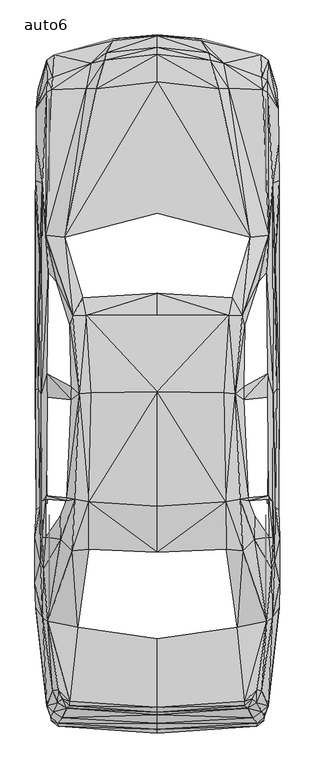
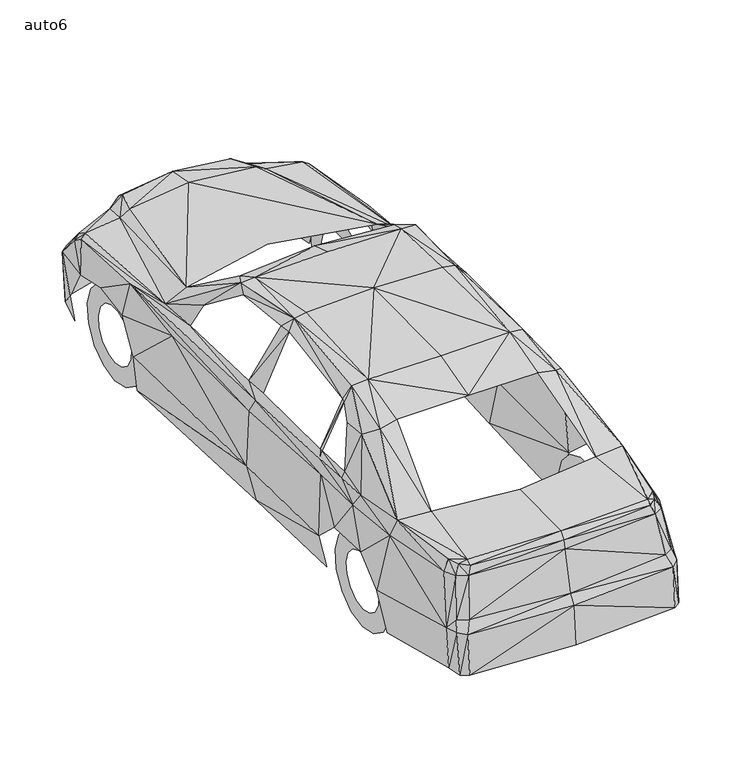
"""IFC4 building model written with IfcOpenShell, lengths in millimetres: proxy geometry, M_RPC maschio : auto6."""

from ifc_helpers import new_model, si_unit, origin, place, context, project, spatial, triangles, source, transform, mapped, element, save


def auto6_a4401406(model_context):
    return source(origin(), model_context, "Body", "Tessellation", [
        triangles([(0.0, -1042.9571966, 1063.5997593), (625.4039045, -1001.505003, 1051.066658), (0.0, -552.9577088, 1073.4870192), (625.5895763, -1033.8126966, 1026.464526), (0.0, -1081.809985, 1023.6793762), (647.1280146, -1052.8444565, 970.0189888), (762.6650757, -1112.1215796, 625.4967768), (759.5549458, -1141.2727798, 329.7609401), (745.8613775, -1075.3576899, 689.7407478), (681.8958778, -1120.8948086, 699.0245562), (318.6203773, 3734.1668381, 217.6125166), (0.0, 3762.6680054, 219.5621251), (714.8534592, 3626.1495941, 210.4175706), (767.9103951, 3582.4694115, 207.493167), (814.3758728, 3391.5941437, 200.3910569), (871.7962778, 2590.865403, 443.5804825), (857.4063131, 2563.4784119, 203.9188939), (872.538965, 1226.6095768, 472.0817588), (809.5482605, 1220.0181187, 199.0913179), (835.1251877, -399.0785113, 217.8910425), (786.5708839, 412.6514474, 193.1032568), (868.0363329, 366.8358573, 477.3271145), (662.3070299, 2314.4401245, 1045.6355942), (791.8626394, 3582.4694115, 585.6227935), (853.0893528, 3376.9723618, 405.3775818), (789.0774897, 3440.1949562, 750.5496815), (753.9847189, 3369.1274918, 834.2432648), (790.3308289, 3351.9058685, 814.3758728), (797.6186108, 2329.0620518, 965.1449404), (508.9385207, 3380.0823463, 858.798888), (534.4689754, 1884.6460098, 1346.1525707), (508.520741, 1756.6687923, 1405.6153656), (472.5923744, 1202.6108963, 1471.298275), (489.9995241, 424.2097898, 1459.8328411), (0.0, 394.3623384, 1477.1006824), (490.7422477, 83.5867857, 1370.476086), (0.0, 65.622616, 1386.5371696), (0.0, 1915.6540009, 1361.1458416), (0.0, 2487.0726105, 1026.0467463), (0.0, 3625.6391602, 871.0535179), (376.9227053, 3579.9628784, 859.7273197), (439.1242501, 3377.5755226, 901.8757645), (314.0713091, 3721.2623932, 601.4052604), (474.3098931, 3560.2809402, 803.0496019), (0.0, 3755.705349, 591.7965082), (0.0, 3675.9573097, 824.3095688), (747.4859877, 3459.9696213, 779.7936813), (737.923708, 3619.7903893, 591.9357802), (366.617702, 3635.0156227, 812.8904984), (0.0, 3429.3328285, 910.3704494), (0.0, 1761.8676029, 1409.7930176), (0.0, 1209.9915504, 1481.5569511), (790.1451571, 1339.4079243, 998.1025217), (780.3042606, 2064.3341698, 957.5786871), (722.8374922, 2000.0902714, 1125.9405762), (605.9543286, 1753.930006, 1401.2519691), (625.1717966, 1690.2430504, 1357.1539341), (824.3095688, 2703.4317879, 894.1702028), (841.6702824, 2169.1949203, 843.0628572), (865.1583109, 3238.7828316, 648.5670256), (870.7286104, 2721.3030807, 667.04177), (867.1543373, 2985.4738747, 709.5152676), (798.5469698, 170.2047453, 1040.0652946), (797.0151592, 443.4736939, 1028.0892088), (782.532395, -428.3689473, 1041.8756493), (570.7686856, -472.5134548, 1060.9074818), (817.2074587, -53.0244842, 1009.475156), (819.8533001, -402.9313285, 931.2126366), (839.1636766, 4.8136557, 915.8479494), (875.8811302, -152.3612578, 679.0643646), (875.9275663, 166.7697261, 662.5391378), (825.4700357, 424.8132414, 992.0215702), (787.5456791, 1170.3960749, 1006.5972067), (842.5986414, 386.3318693, 908.7458393), (852.2074299, 1231.9477684, 865.5296545), (829.090745, 1198.5260439, 952.4261673), (796.5509434, 468.1222258, 1026.6501978), (823.3347736, 168.5336627, 1002.419482), (791.3520601, -1032.8842649, 623.8256578), (869.7073792, -333.7205094, 503.0897135), (764.3825581, -1020.0726196, 314.7211967), (711.6505297, -1012.4134941, 966.0733721), (746.8825361, -927.7915518, 961.2921959), (709.3759592, -919.2968668, 1031.7562815), (679.4820717, -984.8869766, 1026.1859819), (696.2857698, 320.7881593, 1278.7056702), (592.2606877, 443.4736939, 1436.1591408), (651.6306467, 432.1938955, 1345.8740993), (609.4357658, 74.2101414, 1350.5159672), (558.096276, 1195.7408941, 1460.9932354), (615.6558804, 1154.5208084, 1407.4720837), (616.8627834, 1247.9623432, 1397.1670441), (649.7739286, 454.6606928, 1350.8873108), (690.6691069, 156.2790329, 1288.9643463), (0.0, -1096.1534409, 965.2378126), (712.7645605, -1156.916011, 621.7831953), (710.6292984, -1180.032696, 336.2131989), (0.0, -1159.8403965, 677.7645893), (0.0, -1201.9424778, 613.1492746), (0.0, -1228.8655437, 340.1124158), (-625.4039045, -1001.505003, 1051.066658), (-625.5895763, -1033.8126966, 1026.464526), (-647.1280146, -1052.8444565, 970.0189888), (-762.6650757, -1112.1215796, 625.4967768), (-759.5549458, -1141.2727798, 329.7609401), (-745.8613775, -1075.3576899, 689.7407478), (-681.8958778, -1120.8948086, 699.0245562), (-318.6203773, 3734.1668381, 217.6125166), (-714.8534592, 3626.1495941, 210.4175706), (-767.9103951, 3582.4694115, 207.493167), (-814.3758728, 3391.5941437, 200.3910569), (-871.7962778, 2590.865403, 443.5804825), (-857.4063131, 2563.4784119, 203.9188939), (-872.538965, 1226.6095768, 472.0817588), (-809.5482605, 1220.0181187, 199.0913179), (-835.1251877, -399.0785113, 217.8910425), (-786.5708839, 412.6514474, 193.1032568), (-868.0363329, 366.8358573, 477.3271145), (-662.3070299, 2314.4401245, 1045.6355942), (-791.8626394, 3582.4694115, 585.6227935), (-853.0893528, 3376.9723618, 405.3775818), (-789.0774897, 3440.1949562, 750.5496815), (-753.9847189, 3369.1274918, 834.2432648), (-790.3308289, 3351.9058685, 814.3758728), (-797.6186108, 2329.0620518, 965.1449404), (-508.9385207, 3380.0823463, 858.798888), (-534.4689754, 1884.6460098, 1346.1525707), (-508.520741, 1756.6687923, 1405.6153656), (-472.5923744, 1202.6108963, 1471.298275), (-489.9995241, 424.2097898, 1459.8328411), (-490.7422477, 83.5867857, 1370.476086), (-376.9227053, 3579.9628784, 859.7273197), (-439.1242501, 3377.5293045, 901.8757645), (-314.0713091, 3721.2623932, 601.4052604), (-474.3098931, 3560.2809402, 803.0496019), (-747.4859877, 3459.9696213, 779.7936813), (-737.923708, 3619.7903893, 591.9357802), (-366.617702, 3635.0156227, 812.8904984), (-790.1451571, 1339.4079243, 998.1025217), (-780.3042606, 2064.3341698, 957.5786871), (-722.8374922, 2000.0902714, 1125.9405762), (-605.9543286, 1753.930006, 1401.2519691), (-625.1717966, 1690.2430504, 1357.1539341), (-824.3095688, 2703.4317879, 894.1702028), (-841.6702824, 2169.1949203, 843.0628572), (-865.1583109, 3238.7828316, 648.5670256), (-870.7286104, 2721.3030807, 667.04177), (-867.1543373, 2985.4738747, 709.5152676), (-798.5469698, 170.2047453, 1040.0652946), (-797.0151592, 443.4736939, 1028.0892088), (-782.532395, -428.3689473, 1041.8756493), (-570.7686856, -472.5134548, 1060.9074818), (-817.2074587, -53.0244842, 1009.475156), (-819.8533001, -402.9313285, 931.2126366), (-839.1636766, 4.8136557, 915.8479494), (-875.8811302, -152.3612578, 679.0643646), (-875.9275663, 166.7697261, 662.5391378), (-825.4700357, 424.8132414, 992.0215702), (-787.5456791, 1170.3960749, 1006.5972067), (-842.5986414, 386.3318693, 908.7458393), (-852.2074299, 1231.9477684, 865.5296545), (-829.090745, 1198.5260439, 952.4261673), (-796.5509434, 468.1222258, 1026.6501978), (-823.3347736, 168.5336627, 1002.419482), (-791.3520601, -1032.8842649, 623.8256578), (-869.7073792, -333.7205094, 503.0897135), (-764.3825581, -1020.0726196, 314.7211967), (-711.6505297, -1012.4134941, 966.0733721), (-746.8825361, -927.7915518, 961.2921959), (-709.3759592, -919.2968668, 1031.7562815), (-679.4820717, -984.8869766, 1026.1859819), (-696.2857698, 320.7881593, 1278.7056702), (-592.2606877, 443.4272942, 1436.1591408), (-651.6306467, 432.1938955, 1345.8740993), (-609.4357658, 74.2101414, 1350.5159672), (-558.096276, 1195.7408941, 1460.9932354), (-615.6558804, 1154.5208084, 1407.4720837), (-616.8627834, 1247.9623432, 1397.1670441), (-649.7739286, 454.6606928, 1350.8873108), (-690.6691069, 156.2790329, 1288.9643463), (-712.7645605, -1156.916011, 621.7831953), (-710.6292984, -1180.032696, 336.2131989), (-774.2373344, 2976.5752899, 0.0046419), (-774.2373344, 2976.5752899, 129.513797), (-774.2373344, 3112.0725426, 28.7844553), (-774.2373344, 3059.3870956, 147.1066185), (-774.2373344, 3224.1282028, 110.203475), (-774.2373344, 3127.9015182, 196.8678526), (-774.2373344, 3293.3853127, 230.196723), (-774.2373344, 3170.2355621, 270.2099602), (-774.2373344, 3307.8681496, 367.9684916), (-774.2373344, 3179.0553726, 354.4141228), (-774.2373344, 3265.0698898, 499.7057631), (-774.2373344, 3152.9215027, 434.9511764), (-774.2373344, 3172.3708969, 602.616778), (-774.2373344, 3096.2435669, 497.8490087), (-774.2373344, 3045.8326904, 658.9695156), (-774.2373344, 3018.9096245, 532.2919281), (-774.2373344, 2907.3181801, 658.9695156), (-774.2373344, 2934.241246, 532.2919281), (-774.2373344, 2780.7796829, 602.616778), (-774.2373344, 2856.9070129, 497.8490087), (-774.2373344, 2688.0809807, 499.7057631), (-774.2373344, 2800.2293678, 434.9511764), (-774.2373344, 2645.2827209, 367.9684916), (-774.2373344, 2774.0954979, 354.4141228), (-774.2373344, 2659.7652672, 230.196723), (-774.2373344, 2782.9150177, 270.2099602), (-774.2373344, 2729.0226677, 110.203475), (-774.2373344, 2825.2493523, 196.8678526), (-774.2373344, 2841.0780373, 28.7844553), (-774.2373344, 2893.7637749, 147.1066185), (774.2373344, 2976.5752899, 0.0046419), (774.2373344, 2976.5752899, 129.513797), (774.2373344, 2841.0780373, 28.7844553), (774.2373344, 2893.7637749, 147.1066185), (774.2373344, 2729.0226677, 110.203475), (774.2373344, 2825.2493523, 196.8678526), (774.2373344, 2659.7652672, 230.196723), (774.2373344, 2782.9150177, 270.2099602), (774.2373344, 2645.2827209, 367.9684916), (774.2373344, 2774.0954979, 354.4141228), (774.2373344, 2688.0809807, 499.7057631), (774.2373344, 2800.2293678, 434.9511764), (774.2373344, 2780.7796829, 602.616778), (774.2373344, 2856.9070129, 497.8490087), (774.2373344, 2907.3181801, 658.9695156), (774.2373344, 2934.241246, 532.2919281), (774.2373344, 3045.8326904, 658.9695156), (774.2373344, 3018.9096245, 532.2919281), (774.2373344, 3172.3708969, 602.616778), (774.2373344, 3096.2435669, 497.8490087), (774.2373344, 3265.0698898, 499.7057631), (774.2373344, 3152.9215027, 434.9511764), (774.2373344, 3307.8681496, 367.9684916), (774.2373344, 3179.0553726, 354.4141228), (774.2373344, 3293.3853127, 230.196723), (774.2373344, 3170.2355621, 270.2099602), (774.2373344, 3224.1282028, 110.203475), (774.2373344, 3127.9015182, 196.8678526), (774.2373344, 3112.0725426, 28.7844553), (774.2373344, 3059.3870956, 147.1066185), (-774.2373344, 0.0, 0.0046419), (-774.2373344, 0.0, 129.513797), (-774.2373344, 135.4972163, 28.7844553), (-774.2373344, 82.8115877, 147.1066185), (-774.2373344, 247.5528039, 110.203475), (-774.2373344, 151.3261102, 196.8678526), (-774.2373344, 316.8100227, 230.196723), (-774.2373344, 193.6602904, 270.2099602), (-774.2373344, 331.292787, 367.9684916), (-774.2373344, 202.4799192, 354.4141228), (-774.2373344, 288.4944182, 499.7057631), (-774.2373344, 176.3459766, 434.9511764), (-774.2373344, 195.7955707, 602.616778), (-774.2373344, 119.6683224, 497.8490087), (-774.2373344, 69.2572279, 658.9695156), (-774.2373344, 42.3341756, 532.2919281), (-774.2373344, -69.2572279, 658.9695156), (-774.2373344, -42.3341756, 532.2919281), (-774.2373344, -195.7955707, 602.616778), (-774.2373344, -119.6683224, 497.8490087), (-774.2373344, -288.4944182, 499.7057631), (-774.2373344, -176.3459766, 434.9511764), (-774.2373344, -331.292787, 367.9684916), (-774.2373344, -202.4799192, 354.4141228), (-774.2373344, -316.8100227, 230.196723), (-774.2373344, -193.6602904, 270.2099602), (-774.2373344, -247.5528039, 110.203475), (-774.2373344, -151.3261102, 196.8678526), (-774.2373344, -135.4972163, 28.7844553), (-774.2373344, -82.8115877, 147.1066185), (774.2373344, 0.0, 0.0046419), (774.2373344, 0.0, 129.513797), (774.2373344, -135.4972163, 28.7844553), (774.2373344, -82.8115877, 147.1066185), (774.2373344, -247.5528039, 110.203475), (774.2373344, -151.3261102, 196.8678526), (774.2373344, -316.8100227, 230.196723), (774.2373344, -193.6602904, 270.2099602), (774.2373344, -331.292787, 367.9684916), (774.2373344, -202.4799192, 354.4141228), (774.2373344, -288.4944182, 499.7057631), (774.2373344, -176.3459766, 434.9511764), (774.2373344, -195.7955707, 602.616778), (774.2373344, -119.6683224, 497.8490087), (774.2373344, -69.2572279, 658.9695156), (774.2373344, -42.3341756, 532.2919281), (774.2373344, 69.2572279, 658.9695156), (774.2373344, 42.3341756, 532.2919281), (774.2373344, 195.7955707, 602.616778), (774.2373344, 119.6683224, 497.8490087), (774.2373344, 288.4944182, 499.7057631), (774.2373344, 176.3459766, 434.9511764), (774.2373344, 331.292787, 367.9684916), (774.2373344, 202.4799192, 354.4141228), (774.2373344, 316.8100227, 230.196723), (774.2373344, 193.6602904, 270.2099602), (774.2373344, 247.5528039, 110.203475), (774.2373344, 151.3261102, 196.8678526), (774.2373344, 135.4972163, 28.7844553), (774.2373344, 82.8115877, 147.1066185)], [[5, 4, 1], [1, 4, 2], [9, 10, 96], [9, 96, 7], [8, 7, 96], [8, 96, 97], [18, 19, 17], [18, 17, 16], [22, 21, 19], [18, 22, 19], [14, 25, 15], [14, 24, 25], [24, 60, 25], [24, 26, 60], [28, 60, 26], [27, 28, 26], [47, 27, 26], [30, 23, 29], [30, 29, 27], [37, 36, 34], [37, 34, 35], [42, 41, 40], [50, 42, 40], [49, 43, 45], [49, 45, 46], [13, 11, 48], [48, 11, 43], [48, 43, 44], [43, 11, 45], [45, 11, 12], [48, 44, 47], [24, 48, 47], [24, 47, 26], [24, 14, 48], [48, 14, 13], [41, 49, 46], [41, 46, 40], [30, 27, 44], [44, 27, 47], [49, 44, 43], [49, 41, 44], [44, 41, 30], [41, 42, 30], [50, 39, 23], [50, 23, 42], [23, 30, 42], [32, 31, 38], [51, 32, 38], [52, 33, 32], [51, 52, 32], [34, 33, 52], [35, 34, 52], [32, 56, 31], [58, 76, 75], [58, 75, 59], [54, 53, 76], [54, 76, 58], [59, 75, 18], [28, 62, 60], [27, 29, 28], [28, 29, 58], [58, 59, 61], [16, 61, 59], [18, 16, 59], [28, 58, 62], [61, 62, 58], [55, 54, 29], [29, 54, 58], [56, 29, 23], [31, 56, 23], [56, 57, 55], [29, 56, 55], [2, 84, 65], [66, 2, 65], [2, 85, 84], [4, 85, 2], [78, 63, 67], [65, 68, 67], [69, 67, 68], [70, 69, 68], [68, 80, 70], [72, 78, 69], [72, 69, 74], [64, 63, 78], [64, 78, 72], [22, 74, 71], [74, 69, 71], [72, 76, 73], [77, 72, 73], [76, 72, 74], [75, 76, 74], [75, 74, 22], [18, 75, 22], [53, 73, 76], [77, 64, 72], [78, 67, 69], [69, 70, 71], [80, 79, 81], [20, 80, 81], [81, 79, 7], [81, 7, 8], [79, 9, 7], [68, 83, 79], [80, 68, 79], [83, 82, 79], [82, 9, 79], [9, 82, 6], [9, 6, 10], [65, 84, 83], [68, 65, 83], [82, 83, 84], [85, 82, 84], [85, 4, 6], [85, 6, 82], [87, 88, 93], [87, 94, 86], [88, 87, 86], [36, 89, 34], [89, 87, 34], [90, 87, 93], [91, 90, 93], [90, 92, 57], [56, 90, 57], [90, 91, 92], [91, 73, 53], [91, 53, 92], [88, 64, 77], [88, 77, 93], [90, 56, 32], [33, 90, 32], [34, 87, 90], [34, 90, 33], [89, 94, 87], [3, 1, 2], [66, 3, 2], [36, 66, 89], [66, 65, 89], [94, 67, 63], [86, 94, 63], [89, 65, 94], [94, 65, 67], [95, 6, 5], [5, 6, 4], [10, 98, 96], [98, 99, 96], [97, 96, 99], [97, 99, 100], [95, 98, 10], [6, 95, 10], [5, 1, 102], [1, 101, 102], [106, 181, 107], [106, 104, 181], [105, 181, 104], [105, 182, 181], [114, 113, 115], [114, 112, 113], [118, 115, 117], [114, 115, 118], [110, 111, 121], [110, 121, 120], [120, 121, 146], [120, 146, 122], [124, 122, 146], [123, 122, 124], [136, 122, 123], [126, 125, 119], [126, 123, 125], [37, 130, 131], [37, 35, 130], [133, 40, 132], [50, 40, 133], [138, 45, 134], [138, 46, 45], [109, 137, 108], [137, 134, 108], [137, 135, 134], [134, 45, 108], [45, 12, 108], [137, 136, 135], [120, 136, 137], [120, 122, 136], [120, 137, 110], [137, 109, 110], [132, 46, 138], [132, 40, 46], [126, 135, 123], [135, 136, 123], [138, 134, 135], [138, 135, 132], [135, 126, 132], [132, 126, 133], [50, 119, 39], [50, 133, 119], [119, 133, 126], [128, 38, 127], [51, 38, 128], [52, 128, 129], [51, 128, 52], [130, 52, 129], [35, 52, 130], [128, 127, 142], [144, 161, 162], [144, 145, 161], [140, 162, 139], [140, 144, 162], [145, 114, 161], [124, 146, 148], [123, 124, 125], [124, 144, 125], [144, 147, 145], [112, 145, 147], [114, 145, 112], [124, 148, 144], [147, 144, 148], [141, 125, 140], [125, 144, 140], [142, 119, 125], [127, 119, 142], [142, 141, 143], [125, 141, 142], [101, 151, 170], [152, 151, 101], [101, 170, 171], [102, 101, 171], [164, 153, 149], [151, 153, 154], [155, 154, 153], [156, 154, 155], [154, 156, 166], [158, 155, 164], [158, 160, 155], [150, 164, 149], [150, 158, 164], [118, 157, 160], [160, 157, 155], [158, 159, 162], [163, 159, 158], [162, 160, 158], [161, 160, 162], [161, 118, 160], [114, 118, 161], [139, 162, 159], [163, 158, 150], [164, 155, 153], [155, 157, 156], [166, 167, 165], [116, 167, 166], [167, 104, 165], [167, 105, 104], [165, 104, 106], [154, 165, 169], [166, 165, 154], [169, 165, 168], [168, 165, 106], [106, 103, 168], [106, 107, 103], [151, 169, 170], [154, 169, 151], [168, 170, 169], [171, 170, 168], [171, 103, 102], [171, 168, 103], [173, 179, 174], [173, 172, 180], [174, 172, 173], [131, 130, 175], [175, 130, 173], [176, 179, 173], [177, 179, 176], [176, 143, 178], [142, 143, 176], [176, 178, 177], [177, 139, 159], [177, 178, 139], [174, 163, 150], [174, 179, 163], [176, 128, 142], [129, 128, 176], [130, 176, 173], [130, 129, 176], [175, 173, 180], [3, 101, 1], [152, 101, 3], [131, 175, 152], [152, 175, 151], [180, 149, 153], [172, 149, 180], [175, 180, 151], [180, 153, 151], [95, 5, 103], [5, 102, 103], [107, 181, 98], [98, 181, 99], [182, 99, 181], [182, 100, 99], [95, 107, 98], [103, 107, 95], [183, 186, 185], [183, 184, 186], [185, 188, 187], [185, 186, 188], [187, 190, 189], [187, 188, 190], [189, 192, 191], [189, 190, 192], [191, 194, 193], [191, 192, 194], [193, 196, 195], [193, 194, 196], [195, 198, 197], [195, 196, 198], [197, 200, 199], [197, 198, 200], [199, 202, 201], [199, 200, 202], [201, 204, 203], [201, 202, 204], [203, 206, 205], [203, 204, 206], [205, 208, 207], [205, 206, 208], [207, 210, 209], [207, 208, 210], [209, 212, 211], [209, 210, 212], [211, 184, 183], [211, 212, 184], [213, 216, 215], [213, 214, 216], [215, 218, 217], [215, 216, 218], [217, 220, 219], [217, 218, 220], [219, 222, 221], [219, 220, 222], [221, 224, 223], [221, 222, 224], [223, 226, 225], [223, 224, 226], [225, 228, 227], [225, 226, 228], [227, 230, 229], [227, 228, 230], [229, 232, 231], [229, 230, 232], [231, 234, 233], [231, 232, 234], [233, 236, 235], [233, 234, 236], [235, 238, 237], [235, 236, 238], [237, 240, 239], [237, 238, 240], [239, 242, 241], [239, 240, 242], [241, 214, 213], [241, 242, 214], [243, 246, 245], [243, 244, 246], [245, 248, 247], [245, 246, 248], [247, 250, 249], [247, 248, 250], [249, 252, 251], [249, 250, 252], [251, 254, 253], [251, 252, 254], [253, 256, 255], [253, 254, 256], [255, 258, 257], [255, 256, 258], [257, 260, 259], [257, 258, 260], [259, 262, 261], [259, 260, 262], [261, 264, 263], [261, 262, 264], [263, 266, 265], [263, 264, 266], [265, 268, 267], [265, 266, 268], [267, 270, 269], [267, 268, 270], [269, 272, 271], [269, 270, 272], [271, 244, 243], [271, 272, 244], [273, 276, 275], [273, 274, 276], [275, 278, 277], [275, 276, 278], [277, 280, 279], [277, 278, 280], [279, 282, 281], [279, 280, 282], [281, 284, 283], [281, 282, 284], [283, 286, 285], [283, 284, 286], [285, 288, 287], [285, 286, 288], [287, 290, 289], [287, 288, 290], [289, 292, 291], [289, 290, 292], [291, 294, 293], [291, 292, 294], [293, 296, 295], [293, 294, 296], [295, 298, 297], [295, 296, 298], [297, 300, 299], [297, 298, 300], [299, 302, 301], [299, 300, 302], [301, 274, 273], [301, 302, 274]], closed=False),
    ])


if __name__ == "__main__":
    model = new_model("IFC4")
    model_context = context("Model", 3, world=origin())
    ifc_project = project(units=[si_unit("LENGTHUNIT", "METRE", prefix="MILLI")], contexts=[model_context])
    site = spatial("IfcSite", under=ifc_project)
    building = spatial("IfcBuilding", under=site)
    placement = place(None, origin())
    auto6_shape = auto6_a4401406(model_context)
    element("IfcBuildingElementProxy", 1, Name="M_RPC maschio : auto6", ObjectType="M_RPC maschio : auto6", at=placement, inside=building, context=model_context, shape_type="MappedRepresentation", body=[
        mapped(auto6_shape, transform((0.0, 0.0, 0.0), x_axis=(1.0, 0.0, 0.0), y_axis=(0.0, 1.0, 0.0), z_axis=(0.0, 0.0, 1.0))),
    ])
    save(model, "model.ifc")
